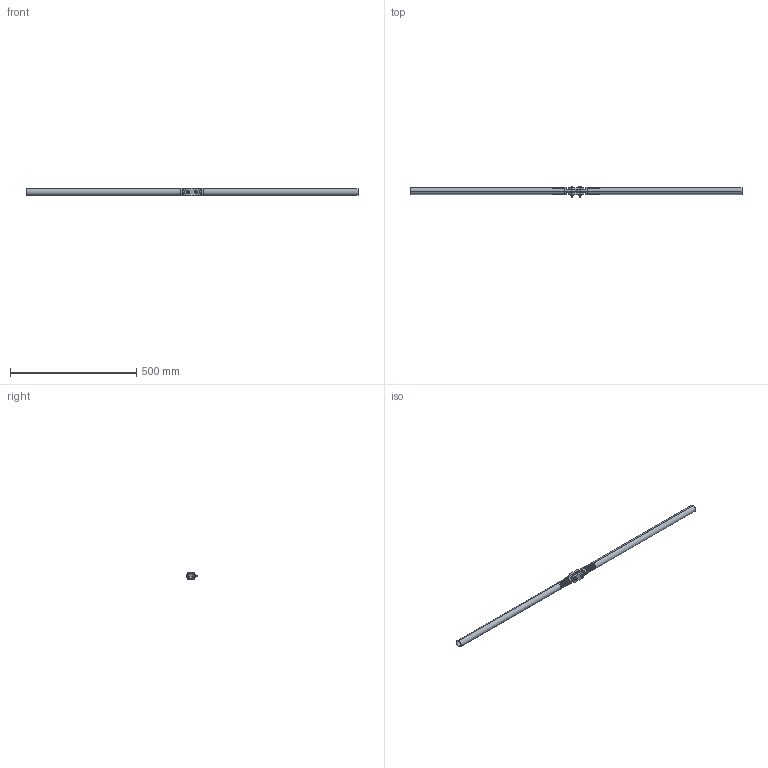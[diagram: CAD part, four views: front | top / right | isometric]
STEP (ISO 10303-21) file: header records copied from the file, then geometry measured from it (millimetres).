
FILE_DESCRIPTION (( 'STEP AP214' ), '1' );
FILE_NAME ('Male to Link and Link to Male.STEP', '2013-08-19T15:55:41', ( 'ydmin' ), ( 'Microsoft' ), 'SwSTEP 2.0', 'SolidWorks 2013', '' );
FILE_SCHEMA (( 'AUTOMOTIVE_DESIGN' ));
Length unit declared in the file: inch
Products named in the file (6): Male to Link and Link to Male; DRP-002-0509-00_MALE YOKE TUBE INSERT; DRP-002-0525-00; 95479A111_95479A111; 91255A546_91255A546; 6.000 Inch Tube
Assembly tree (10 placements, depth 2):
  Male to Link and Link to Male
    DRP-002-0509-00_MALE YOKE TUBE INSERT  x2
    DRP-002-0525-00  x2
    95479A111_95479A111  x2
    91255A546_91255A546  x2
    6.000 Inch Tube  x2
Bounding box: 1312.72 x 41.45 x 28.57 mm (x, y, z)
Volume: 176073.7 mm3; surface area: 241133.4 mm2
Topology: 10 solids, 10 shells, 1140 faces, 2748 edges, 1630 vertices
Faces by surface type: cylinder 514, cone 328, plane 274, torus 16, sphere 8
Entity records: 20399 total; most frequent: CARTESIAN_POINT 6889, DIRECTION 2837, ORIENTED_EDGE 2744, EDGE_CURVE 1372, AXIS2_PLACEMENT_3D 1053, VERTEX_POINT 815, LINE 731, VECTOR 731
